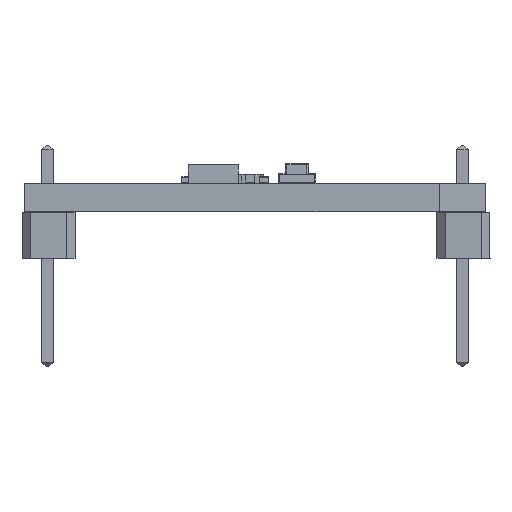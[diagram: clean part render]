
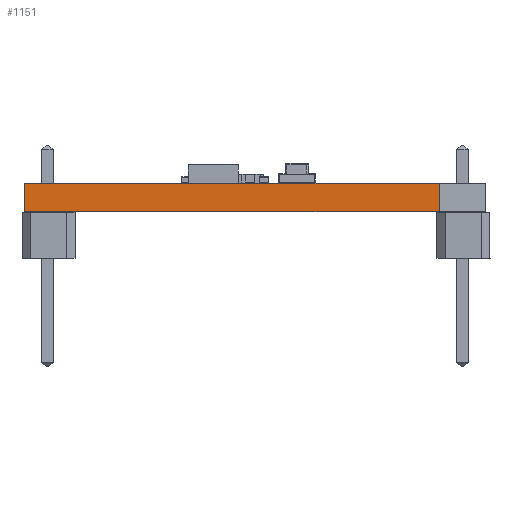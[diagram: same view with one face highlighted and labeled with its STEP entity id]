
A CAD part, front view. The second image highlights one B-rep face of the part: STEP entity #1151.
In plain terms, the highlighted planar face has unit normal (0, -1, 0).
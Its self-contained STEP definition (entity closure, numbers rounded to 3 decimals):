
#97 = EDGE_CURVE('',#98,#100,#102,.T.);
#98 = VERTEX_POINT('',#99);
#99 = CARTESIAN_POINT('',(-1.27,-3.81,0.));
#100 = VERTEX_POINT('',#101);
#101 = CARTESIAN_POINT('',(-1.27,-3.81,1.59));
#102 = LINE('',#103,#104);
#103 = CARTESIAN_POINT('',(-1.27,-3.81,0.));
#104 = VECTOR('',#105,1.);
#105 = DIRECTION('',(0.,0.,1.));
#1126 = VERTEX_POINT('',#1127);
#1127 = CARTESIAN_POINT('',(21.59,-3.81,1.59));
#1133 = EDGE_CURVE('',#1134,#1126,#1136,.T.);
#1134 = VERTEX_POINT('',#1135);
#1135 = CARTESIAN_POINT('',(21.59,-3.81,0.));
#1136 = LINE('',#1137,#1138);
#1137 = CARTESIAN_POINT('',(21.59,-3.81,0.));
#1138 = VECTOR('',#1139,1.);
#1139 = DIRECTION('',(0.,0.,1.));
#1151 = ADVANCED_FACE('',(#1152),#1168,.T.);
#1152 = FACE_BOUND('',#1153,.T.);
#1153 = EDGE_LOOP('',(#1154,#1155,#1161,#1162));
#1154 = ORIENTED_EDGE('',*,*,#1133,.T.);
#1155 = ORIENTED_EDGE('',*,*,#1156,.T.);
#1156 = EDGE_CURVE('',#1126,#100,#1157,.T.);
#1157 = LINE('',#1158,#1159);
#1158 = CARTESIAN_POINT('',(21.59,-3.81,1.59));
#1159 = VECTOR('',#1160,1.);
#1160 = DIRECTION('',(-1.,0.,0.));
#1161 = ORIENTED_EDGE('',*,*,#97,.F.);
#1162 = ORIENTED_EDGE('',*,*,#1163,.F.);
#1163 = EDGE_CURVE('',#1134,#98,#1164,.T.);
#1164 = LINE('',#1165,#1166);
#1165 = CARTESIAN_POINT('',(21.59,-3.81,0.));
#1166 = VECTOR('',#1167,1.);
#1167 = DIRECTION('',(-1.,0.,0.));
#1168 = PLANE('',#1169);
#1169 = AXIS2_PLACEMENT_3D('',#1170,#1171,#1172);
#1170 = CARTESIAN_POINT('',(21.59,-3.81,0.));
#1171 = DIRECTION('',(0.,-1.,0.));
#1172 = DIRECTION('',(-1.,0.,0.));
